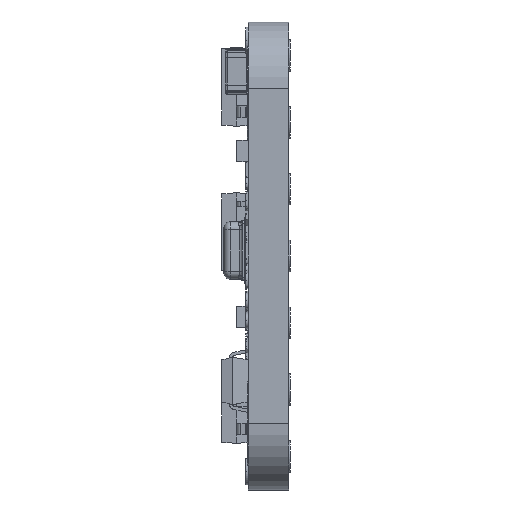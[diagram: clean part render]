
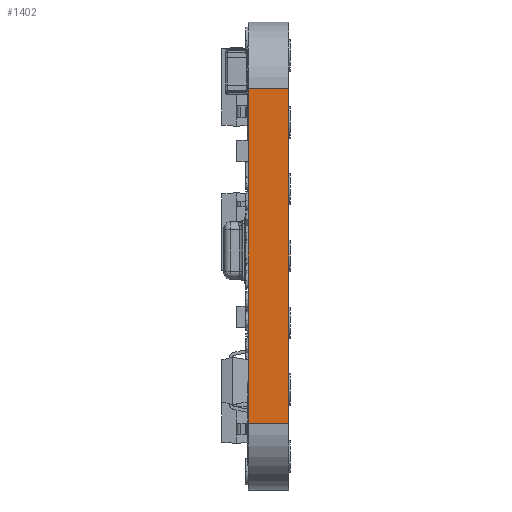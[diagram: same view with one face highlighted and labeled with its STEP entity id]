
A CAD part, left-side view. The second image highlights one B-rep face of the part: STEP entity #1402.
In plain terms, the highlighted planar face has unit normal (-1, 0, 0).
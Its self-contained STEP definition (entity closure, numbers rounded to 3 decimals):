
#570 = ORIENTED_EDGE ( 'NONE', *, *, #15922, .T. ) ;
#1402 = ADVANCED_FACE ( 'NONE', ( #32677 ), #16846, .T. ) ;
#3225 = EDGE_CURVE ( 'NONE', #26344, #50235, #3446, .T. ) ;
#3446 = LINE ( 'NONE', #51217, #26436 ) ;
#3497 = DIRECTION ( 'NONE',  ( 0., -1., 0. ) ) ;
#8628 = CARTESIAN_POINT ( 'NONE',  ( -9.525, 1.55, -8.89 ) ) ;
#9060 = CARTESIAN_POINT ( 'NONE',  ( -9.525, 0., 6.35 ) ) ;
#9496 = AXIS2_PLACEMENT_3D ( 'NONE', #48808, #40169, #20916 ) ;
#9792 = ORIENTED_EDGE ( 'NONE', *, *, #3225, .T. ) ;
#10802 = VECTOR ( 'NONE', #24671, 1000. ) ;
#10959 = VECTOR ( 'NONE', #3497, 1000. ) ;
#13183 = CARTESIAN_POINT ( 'NONE',  ( -9.525, 0., 6.35 ) ) ;
#15922 = EDGE_CURVE ( 'NONE', #43695, #29643, #36383, .T. ) ;
#16811 = CARTESIAN_POINT ( 'NONE',  ( -9.525, 0., -6.35 ) ) ;
#16846 = PLANE ( 'NONE',  #9496 ) ;
#17087 = DIRECTION ( 'NONE',  ( 0., -1., 0. ) ) ;
#20916 = DIRECTION ( 'NONE',  ( 0., 0., 1. ) ) ;
#21428 = ORIENTED_EDGE ( 'NONE', *, *, #49300, .F. ) ;
#23074 = DIRECTION ( 'NONE',  ( 0., 0., 1. ) ) ;
#24671 = DIRECTION ( 'NONE',  ( 0., 0., -1. ) ) ;
#24891 = CARTESIAN_POINT ( 'NONE',  ( -9.525, 1.55, 6.35 ) ) ;
#26344 = VERTEX_POINT ( 'NONE', #16811 ) ;
#26436 = VECTOR ( 'NONE', #23074, 1000. ) ;
#29643 = VERTEX_POINT ( 'NONE', #48951 ) ;
#32287 = VECTOR ( 'NONE', #17087, 1000. ) ;
#32677 = FACE_OUTER_BOUND ( 'NONE', #35198, .T. ) ;
#35198 = EDGE_LOOP ( 'NONE', ( #40492, #9792, #21428, #570 ) ) ;
#36383 = LINE ( 'NONE', #8628, #10802 ) ;
#40169 = DIRECTION ( 'NONE',  ( -1., 0., 0. ) ) ;
#40492 = ORIENTED_EDGE ( 'NONE', *, *, #50608, .T. ) ;
#43671 = LINE ( 'NONE', #46830, #10959 ) ;
#43695 = VERTEX_POINT ( 'NONE', #24891 ) ;
#46830 = CARTESIAN_POINT ( 'NONE',  ( -9.525, 0., -6.35 ) ) ;
#47513 = LINE ( 'NONE', #13183, #32287 ) ;
#48808 = CARTESIAN_POINT ( 'NONE',  ( -9.525, 0., -8.89 ) ) ;
#48951 = CARTESIAN_POINT ( 'NONE',  ( -9.525, 1.55, -6.35 ) ) ;
#49300 = EDGE_CURVE ( 'NONE', #43695, #50235, #47513, .T. ) ;
#50235 = VERTEX_POINT ( 'NONE', #9060 ) ;
#50608 = EDGE_CURVE ( 'NONE', #29643, #26344, #43671, .T. ) ;
#51217 = CARTESIAN_POINT ( 'NONE',  ( -9.525, 0., 0. ) ) ;
